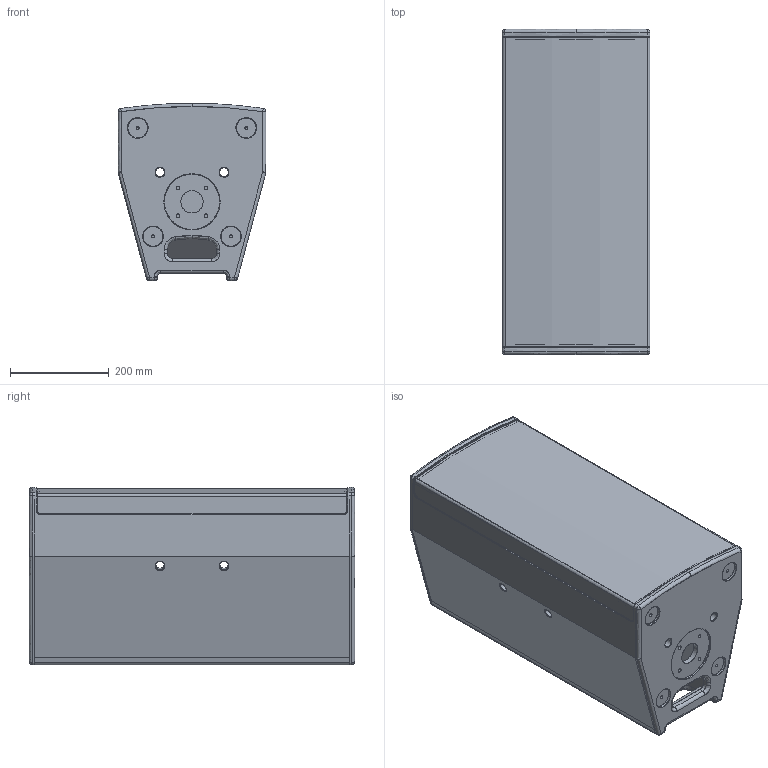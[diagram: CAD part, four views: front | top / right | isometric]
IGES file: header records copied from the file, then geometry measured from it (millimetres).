
Start section: SolidWorks IGES file using analytic representation for surfaces
Global section: file name: C:\Users\Michl\Documents\Michl\SolidWorks\K20\Alex_Juni2017\Solid\K20 V4\Internet\SEEBURG_K20.IGS; native system: SolidWorks 2009; preprocessor: SolidWorks 2009; author: Michl; date: 181119.101318; units: millimetre
Bounding box: 300 x 660 x 360 mm (x, y, z)
Surface area: 2336668.1 mm2 (no closed solid volume)
Topology: 0 solids, 0 shells, 486 faces, 5848 edges, 5840 vertices
Faces by surface type: bspline 271, revolution 215
